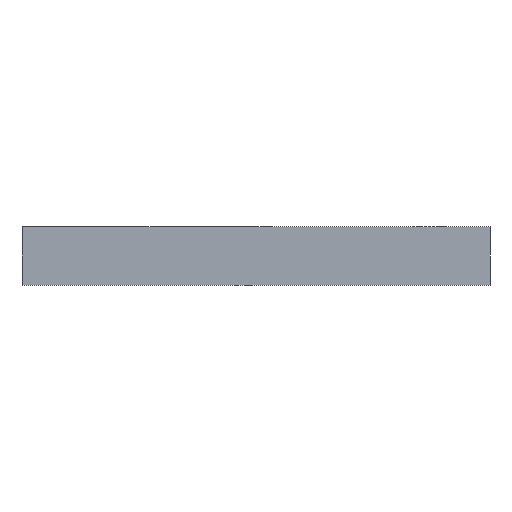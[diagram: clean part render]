
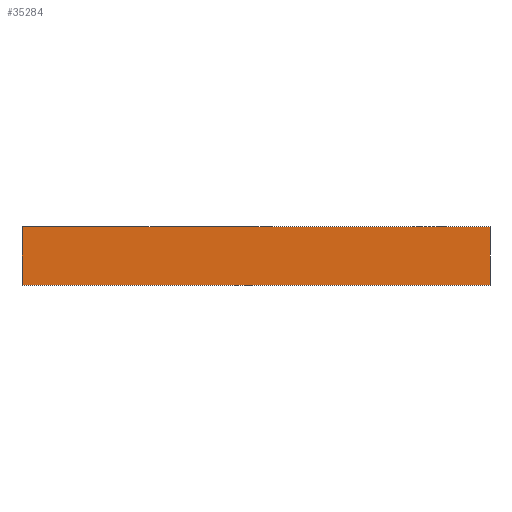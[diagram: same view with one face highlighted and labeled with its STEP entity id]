
A CAD part, left-side view. The second image highlights one B-rep face of the part: STEP entity #35284.
In plain terms, the highlighted planar face has unit normal (-1, 0, 0).
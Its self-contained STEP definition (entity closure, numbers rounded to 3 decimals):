
#35284 = ADVANCED_FACE('',(#35285),#35299,.F.);
#35285 = FACE_BOUND('',#35286,.F.);
#35286 = EDGE_LOOP('',(#35287,#35322,#35350,#35378));
#35287 = ORIENTED_EDGE('',*,*,#35288,.F.);
#35288 = EDGE_CURVE('',#35289,#35291,#35293,.T.);
#35289 = VERTEX_POINT('',#35290);
#35290 = CARTESIAN_POINT('',(0.,0.,0.));
#35291 = VERTEX_POINT('',#35292);
#35292 = CARTESIAN_POINT('',(0.,0.,1.5));
#35293 = SURFACE_CURVE('',#35294,(#35298,#35310),.PCURVE_S1.);
#35294 = LINE('',#35295,#35296);
#35295 = CARTESIAN_POINT('',(0.,0.,0.));
#35296 = VECTOR('',#35297,1.);
#35297 = DIRECTION('',(0.,0.,1.));
#35298 = PCURVE('',#35299,#35304);
#35299 = PLANE('',#35300);
#35300 = AXIS2_PLACEMENT_3D('',#35301,#35302,#35303);
#35301 = CARTESIAN_POINT('',(0.,0.,0.));
#35302 = DIRECTION('',(1.,0.,-0.));
#35303 = DIRECTION('',(0.,0.,1.));
#35304 = DEFINITIONAL_REPRESENTATION('',(#35305),#35309);
#35305 = LINE('',#35306,#35307);
#35306 = CARTESIAN_POINT('',(0.,0.));
#35307 = VECTOR('',#35308,1.);
#35308 = DIRECTION('',(1.,0.));
#35309 = ( GEOMETRIC_REPRESENTATION_CONTEXT(2) 
PARAMETRIC_REPRESENTATION_CONTEXT() REPRESENTATION_CONTEXT('2D SPACE',''
  ) );
#35310 = PCURVE('',#35311,#35316);
#35311 = PLANE('',#35312);
#35312 = AXIS2_PLACEMENT_3D('',#35313,#35314,#35315);
#35313 = CARTESIAN_POINT('',(0.,0.,0.));
#35314 = DIRECTION('',(-0.,1.,0.));
#35315 = DIRECTION('',(0.,0.,1.));
#35316 = DEFINITIONAL_REPRESENTATION('',(#35317),#35321);
#35317 = LINE('',#35318,#35319);
#35318 = CARTESIAN_POINT('',(0.,0.));
#35319 = VECTOR('',#35320,1.);
#35320 = DIRECTION('',(1.,0.));
#35321 = ( GEOMETRIC_REPRESENTATION_CONTEXT(2) 
PARAMETRIC_REPRESENTATION_CONTEXT() REPRESENTATION_CONTEXT('2D SPACE',''
  ) );
#35322 = ORIENTED_EDGE('',*,*,#35323,.T.);
#35323 = EDGE_CURVE('',#35289,#35324,#35326,.T.);
#35324 = VERTEX_POINT('',#35325);
#35325 = CARTESIAN_POINT('',(0.,12.,0.));
#35326 = SURFACE_CURVE('',#35327,(#35331,#35338),.PCURVE_S1.);
#35327 = LINE('',#35328,#35329);
#35328 = CARTESIAN_POINT('',(0.,0.,0.));
#35329 = VECTOR('',#35330,1.);
#35330 = DIRECTION('',(-0.,1.,0.));
#35331 = PCURVE('',#35299,#35332);
#35332 = DEFINITIONAL_REPRESENTATION('',(#35333),#35337);
#35333 = LINE('',#35334,#35335);
#35334 = CARTESIAN_POINT('',(0.,0.));
#35335 = VECTOR('',#35336,1.);
#35336 = DIRECTION('',(0.,-1.));
#35337 = ( GEOMETRIC_REPRESENTATION_CONTEXT(2) 
PARAMETRIC_REPRESENTATION_CONTEXT() REPRESENTATION_CONTEXT('2D SPACE',''
  ) );
#35338 = PCURVE('',#35339,#35344);
#35339 = PLANE('',#35340);
#35340 = AXIS2_PLACEMENT_3D('',#35341,#35342,#35343);
#35341 = CARTESIAN_POINT('',(0.,0.,0.));
#35342 = DIRECTION('',(0.,0.,1.));
#35343 = DIRECTION('',(1.,0.,-0.));
#35344 = DEFINITIONAL_REPRESENTATION('',(#35345),#35349);
#35345 = LINE('',#35346,#35347);
#35346 = CARTESIAN_POINT('',(0.,0.));
#35347 = VECTOR('',#35348,1.);
#35348 = DIRECTION('',(0.,1.));
#35349 = ( GEOMETRIC_REPRESENTATION_CONTEXT(2) 
PARAMETRIC_REPRESENTATION_CONTEXT() REPRESENTATION_CONTEXT('2D SPACE',''
  ) );
#35350 = ORIENTED_EDGE('',*,*,#35351,.T.);
#35351 = EDGE_CURVE('',#35324,#35352,#35354,.T.);
#35352 = VERTEX_POINT('',#35353);
#35353 = CARTESIAN_POINT('',(0.,12.,1.5));
#35354 = SURFACE_CURVE('',#35355,(#35359,#35366),.PCURVE_S1.);
#35355 = LINE('',#35356,#35357);
#35356 = CARTESIAN_POINT('',(0.,12.,0.));
#35357 = VECTOR('',#35358,1.);
#35358 = DIRECTION('',(0.,0.,1.));
#35359 = PCURVE('',#35299,#35360);
#35360 = DEFINITIONAL_REPRESENTATION('',(#35361),#35365);
#35361 = LINE('',#35362,#35363);
#35362 = CARTESIAN_POINT('',(0.,-12.));
#35363 = VECTOR('',#35364,1.);
#35364 = DIRECTION('',(1.,0.));
#35365 = ( GEOMETRIC_REPRESENTATION_CONTEXT(2) 
PARAMETRIC_REPRESENTATION_CONTEXT() REPRESENTATION_CONTEXT('2D SPACE',''
  ) );
#35366 = PCURVE('',#35367,#35372);
#35367 = PLANE('',#35368);
#35368 = AXIS2_PLACEMENT_3D('',#35369,#35370,#35371);
#35369 = CARTESIAN_POINT('',(0.,12.,0.));
#35370 = DIRECTION('',(-0.,1.,0.));
#35371 = DIRECTION('',(0.,0.,1.));
#35372 = DEFINITIONAL_REPRESENTATION('',(#35373),#35377);
#35373 = LINE('',#35374,#35375);
#35374 = CARTESIAN_POINT('',(0.,0.));
#35375 = VECTOR('',#35376,1.);
#35376 = DIRECTION('',(1.,0.));
#35377 = ( GEOMETRIC_REPRESENTATION_CONTEXT(2) 
PARAMETRIC_REPRESENTATION_CONTEXT() REPRESENTATION_CONTEXT('2D SPACE',''
  ) );
#35378 = ORIENTED_EDGE('',*,*,#35379,.F.);
#35379 = EDGE_CURVE('',#35291,#35352,#35380,.T.);
#35380 = SURFACE_CURVE('',#35381,(#35385,#35392),.PCURVE_S1.);
#35381 = LINE('',#35382,#35383);
#35382 = CARTESIAN_POINT('',(0.,0.,1.5));
#35383 = VECTOR('',#35384,1.);
#35384 = DIRECTION('',(-0.,1.,0.));
#35385 = PCURVE('',#35299,#35386);
#35386 = DEFINITIONAL_REPRESENTATION('',(#35387),#35391);
#35387 = LINE('',#35388,#35389);
#35388 = CARTESIAN_POINT('',(1.5,0.));
#35389 = VECTOR('',#35390,1.);
#35390 = DIRECTION('',(0.,-1.));
#35391 = ( GEOMETRIC_REPRESENTATION_CONTEXT(2) 
PARAMETRIC_REPRESENTATION_CONTEXT() REPRESENTATION_CONTEXT('2D SPACE',''
  ) );
#35392 = PCURVE('',#35393,#35398);
#35393 = PLANE('',#35394);
#35394 = AXIS2_PLACEMENT_3D('',#35395,#35396,#35397);
#35395 = CARTESIAN_POINT('',(0.,0.,1.5));
#35396 = DIRECTION('',(0.,0.,1.));
#35397 = DIRECTION('',(1.,0.,-0.));
#35398 = DEFINITIONAL_REPRESENTATION('',(#35399),#35403);
#35399 = LINE('',#35400,#35401);
#35400 = CARTESIAN_POINT('',(0.,0.));
#35401 = VECTOR('',#35402,1.);
#35402 = DIRECTION('',(0.,1.));
#35403 = ( GEOMETRIC_REPRESENTATION_CONTEXT(2) 
PARAMETRIC_REPRESENTATION_CONTEXT() REPRESENTATION_CONTEXT('2D SPACE',''
  ) );
